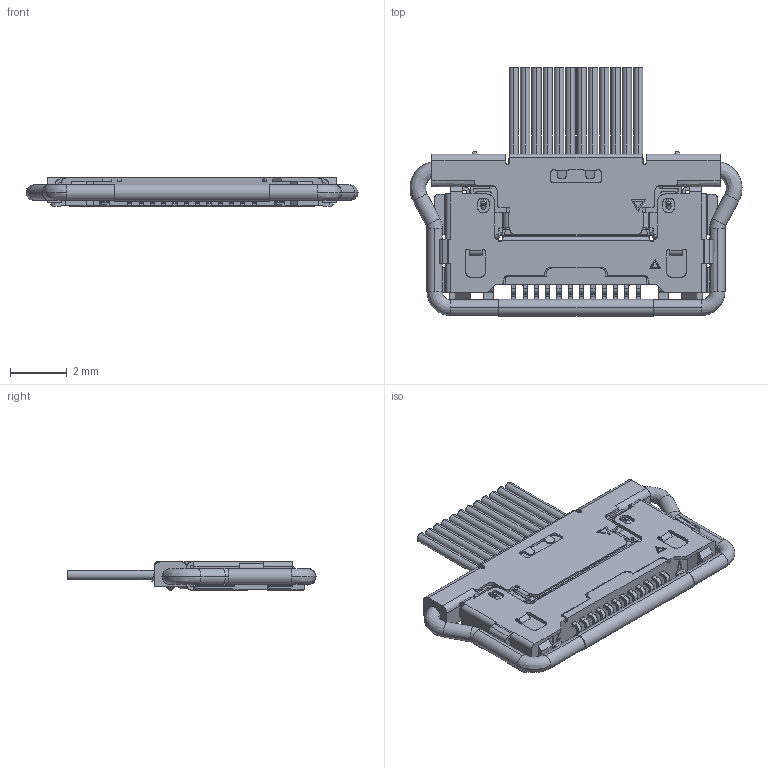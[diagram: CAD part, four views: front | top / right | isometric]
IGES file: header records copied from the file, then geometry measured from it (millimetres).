
Start section: SolidWorks IGES file using analytic representation for surfaces
Global section: file name: Q:\CAB-CA‹¤—L\3Dƒ‚ƒfƒ‹\IGES\12P\20633-x12T-01S+20525-x12E-02C MATING IGES R3R4R1R7 ALL.IGS; native system: SolidWorks 2012; preprocessor: SolidWorks 2012; author: ieng2-008; date: 150402.221250; units: millimetre
Bounding box: 11.75 x 8.78 x 1 mm (x, y, z)
Surface area: 253.5 mm2 (no closed solid volume)
Topology: 0 solids, 0 shells, 1156 faces, 8686 edges, 8672 vertices
Faces by surface type: bspline 744, revolution 412
